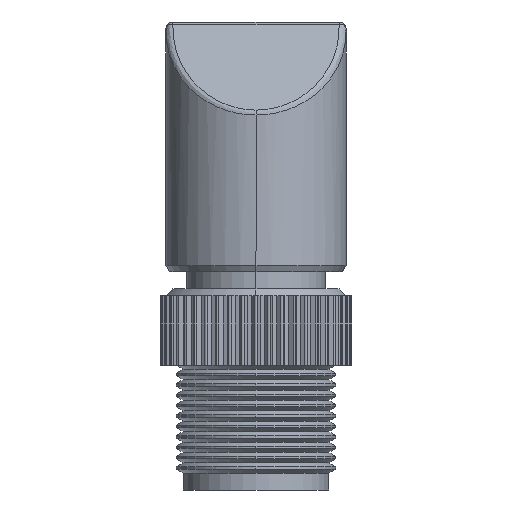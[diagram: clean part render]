
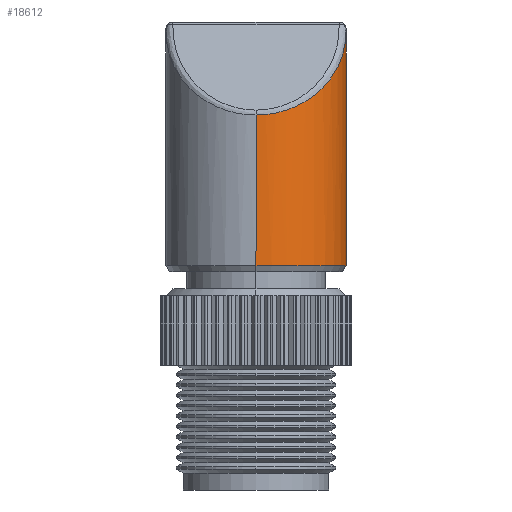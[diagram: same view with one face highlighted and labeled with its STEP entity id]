
A CAD part, left-side view. The second image highlights one B-rep face of the part: STEP entity #18612.
In plain terms, the highlighted cylindrical face has radius 6.604 mm (diameter 13.208 mm), a partial arc.
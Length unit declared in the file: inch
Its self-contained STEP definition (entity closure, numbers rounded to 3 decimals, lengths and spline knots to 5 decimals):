
#11350=CARTESIAN_POINT('',(0.,0.23684,-13.83));
#11351=CARTESIAN_POINT('',(0.00937,0.23684,-13.83));
#11352=CARTESIAN_POINT('',(0.02819,0.23576,
-13.83102));
#11353=CARTESIAN_POINT('',(0.05598,0.231,
-13.83557));
#11354=CARTESIAN_POINT('',(0.08389,0.22286,
-13.84332));
#11355=CARTESIAN_POINT('',(0.11201,0.21087,
-13.85468));
#11356=CARTESIAN_POINT('',(0.13991,0.19453,
-13.87006));
#11357=CARTESIAN_POINT('',(0.16596,0.17417,
-13.88901));
#11358=CARTESIAN_POINT('',(0.18814,0.1514,
-13.90981));
#11359=CARTESIAN_POINT('',(0.20487,0.12941,
-13.92934));
#11360=CARTESIAN_POINT('',(0.2175,0.10864,
-13.94707));
#11361=CARTESIAN_POINT('',(0.22696,0.08917,
-13.96279));
#11362=CARTESIAN_POINT('',(0.23406,0.07067,
-13.97651));
#11363=CARTESIAN_POINT('',(0.23925,0.05304,
-13.98801));
#11364=CARTESIAN_POINT('',(0.24283,0.03597,
-13.99698));
#11365=CARTESIAN_POINT('',(0.24493,0.01999,
-14.00274));
#11366=CARTESIAN_POINT('',(0.24581,0.00484,
-14.00528));
#11367=CARTESIAN_POINT('',(0.24564,-0.00949,
-14.00478));
#11368=CARTESIAN_POINT('',(0.24451,-0.02386,
-14.00155));
#11369=CARTESIAN_POINT('',(0.24226,-0.03905,
-13.9955));
#11370=CARTESIAN_POINT('',(0.23861,-0.05542,
-13.98654));
#11371=CARTESIAN_POINT('',(0.23347,-0.07233,
-13.97532));
#11372=CARTESIAN_POINT('',(0.22654,-0.09008,
-13.96206));
#11373=CARTESIAN_POINT('',(0.21731,-0.10892,
-13.94683));
#11374=CARTESIAN_POINT('',(0.20522,-0.12882,
-13.92984));
#11375=CARTESIAN_POINT('',(0.18935,-0.14993,
-13.91113));
#11376=CARTESIAN_POINT('',(0.16772,-0.17256,
-13.8905));
#11377=CARTESIAN_POINT('',(0.14197,-0.19311,
-13.87139));
#11378=CARTESIAN_POINT('',(0.114,-0.2099,
-13.8556));
#11379=CARTESIAN_POINT('',(0.085,-0.22249,
-13.84367));
#11380=CARTESIAN_POINT('',(0.06671,-0.22788,
-13.83854));
#11381=CARTESIAN_POINT('',(0.05786,-0.23,-13.83652));
#11404=CARTESIAN_POINT('',(0.,0.01828,
-14.35));
#11405=CARTESIAN_POINT('',(0.00926,0.01828,
-14.35));
#11406=CARTESIAN_POINT('',(0.02802,0.01737,
-14.34901));
#11407=CARTESIAN_POINT('',(0.05648,0.01307,
-14.34435));
#11408=CARTESIAN_POINT('',(0.08514,0.00562,
-14.33628));
#11409=CARTESIAN_POINT('',(0.11364,-0.00521,
-14.32455));
#11410=CARTESIAN_POINT('',(0.14154,-0.01964,
-14.30891));
#11411=CARTESIAN_POINT('',(0.16859,-0.03809,
-14.28893));
#11412=CARTESIAN_POINT('',(0.19405,-0.06082,
-14.2643));
#11413=CARTESIAN_POINT('',(0.21694,-0.08788,
-14.23498));
#11414=CARTESIAN_POINT('',(0.23616,-0.11913,
-14.20114));
#11415=CARTESIAN_POINT('',(0.25058,-0.15405,
-14.1633));
#11416=CARTESIAN_POINT('',(0.25904,-0.19152,
-14.12272));
#11417=CARTESIAN_POINT('',(0.26033,-0.21709,
-14.09501));
#11418=CARTESIAN_POINT('',(0.25985,-0.23,
-14.08103));
#11420=DIRECTION('',(0.,1.,0.));
#11421=VECTOR('',#11420,0.21584);
#11422=CARTESIAN_POINT('',(0.,0.23684,-13.83));
#11423=LINE('',#11422,#11421);
#11424=DIRECTION('',(0.,-1.,0.));
#11425=VECTOR('',#11424,0.4344);
#11426=CARTESIAN_POINT('',(0.,0.45268,-14.35));
#11427=LINE('',#11426,#11425);
#11517=CARTESIAN_POINT('',(0.,-0.23,-14.09));
#11518=DIRECTION('',(0.,1.,0.));
#11519=DIRECTION('',(0.223,0.,0.975));
#11520=AXIS2_PLACEMENT_3D('',#11517,#11518,#11519);
#11578=CARTESIAN_POINT('',(0.,0.45268,-14.09));
#11579=DIRECTION('',(0.,-1.,0.));
#11580=DIRECTION('',(0.,0.,-1.));
#11581=AXIS2_PLACEMENT_3D('',#11578,#11579,#11580);
#16146=VERTEX_POINT('',#11350);
#16147=VERTEX_POINT('',#11381);
#16150=VERTEX_POINT('',#11404);
#16151=VERTEX_POINT('',#11418);
#16152=CARTESIAN_POINT('',(0.,0.45268,-13.83));
#16153=VERTEX_POINT('',#16152);
#16154=CARTESIAN_POINT('',(0.,0.45268,-14.35));
#16155=VERTEX_POINT('',#16154);
#18594=CARTESIAN_POINT('',(0.,0.46633,-14.09));
#18595=DIRECTION('',(0.,-1.,0.));
#18596=DIRECTION('',(0.,0.,-1.));
#18597=AXIS2_PLACEMENT_3D('',#18594,#18595,#18596);
#18598=CYLINDRICAL_SURFACE('',#18597,0.26);
#18600=ORIENTED_EDGE('',*,*,#18599,.T.);
#18602=ORIENTED_EDGE('',*,*,#18601,.F.);
#18603=ORIENTED_EDGE('',*,*,#18574,.F.);
#18605=ORIENTED_EDGE('',*,*,#18604,.T.);
#18607=ORIENTED_EDGE('',*,*,#18606,.F.);
#18609=ORIENTED_EDGE('',*,*,#18608,.T.);
#18610=EDGE_LOOP('',(#18600,#18602,#18603,#18605,#18607,#18609));
#18611=FACE_OUTER_BOUND('',#18610,.F.);
#18612=ADVANCED_FACE('',(#18611),#18598,.T.);
#11382=B_SPLINE_CURVE_WITH_KNOTS('',3,(#11350,#11351,#11352,#11353,#11354,
#11355,#11356,#11357,#11358,#11359,#11360,#11361,#11362,#11363,#11364,#11365,
#11366,#11367,#11368,#11369,#11370,#11371,#11372,#11373,#11374,#11375,#11376,
#11377,#11378,#11379,#11380,#11381),.UNSPECIFIED.,.F.,.F.,(4,1,1,1,1,1,1,1,1,1,
1,1,1,1,1,1,1,1,1,1,1,1,1,1,1,1,1,1,1,4),(0.,0.03448,
0.06897,0.10345,0.13793,0.17241,
0.2069,0.24138,0.27586,0.31034,
0.34483,0.37931,0.41379,0.44828,
0.48276,0.51724,0.55172,0.58621,
0.62069,0.65517,0.68966,0.72414,
0.75862,0.7931,0.82759,0.86207,
0.89655,0.93103,0.96552,1.),.UNSPECIFIED.);
#11419=B_SPLINE_CURVE_WITH_KNOTS('',3,(#11404,#11405,#11406,#11407,#11408,
#11409,#11410,#11411,#11412,#11413,#11414,#11415,#11416,#11417,#11418),
.UNSPECIFIED.,.F.,.F.,(4,1,1,1,1,1,1,1,1,1,1,1,4),(0.,0.08333,
0.16667,0.25,0.33333,0.41667,0.5,
0.58333,0.66667,0.75,0.83333,0.91667,
1.),.UNSPECIFIED.);
#11521=CIRCLE('',#11520,0.26);
#11582=CIRCLE('',#11581,0.26);
#18574=EDGE_CURVE('',#16146,#16147,#11382,.T.);
#18599=EDGE_CURVE('',#16150,#16151,#11419,.T.);
#18601=EDGE_CURVE('',#16147,#16151,#11521,.T.);
#18604=EDGE_CURVE('',#16146,#16153,#11423,.T.);
#18606=EDGE_CURVE('',#16155,#16153,#11582,.T.);
#18608=EDGE_CURVE('',#16155,#16150,#11427,.T.);
